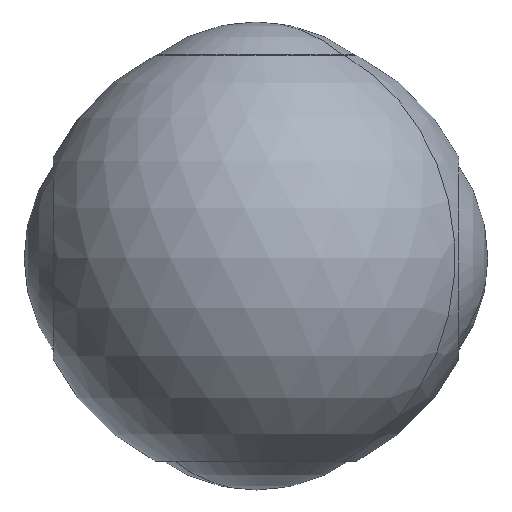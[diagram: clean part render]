
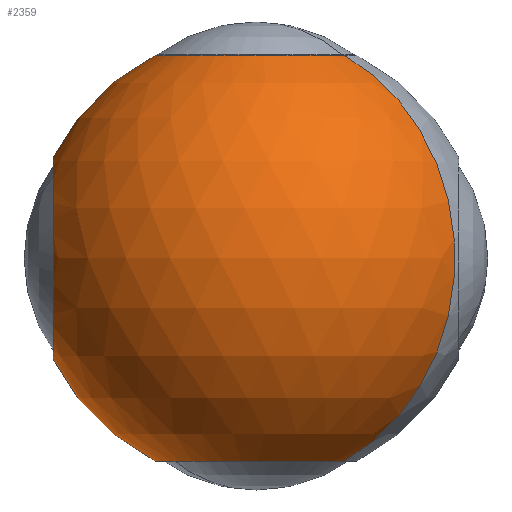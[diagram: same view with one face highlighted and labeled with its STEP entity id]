
A CAD part, front view. The second image highlights one B-rep face of the part: STEP entity #2359.
In plain terms, the highlighted spherical face has radius 55 mm.
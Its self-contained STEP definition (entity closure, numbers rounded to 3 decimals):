
#2226=CARTESIAN_POINT('Axis2P3D Location',(0.,0.,49.242)) ;
#2230=CARTESIAN_POINT('Vertex',(21.501,11.746,49.242)) ;
#2232=CARTESIAN_POINT('Vertex',(-21.501,11.746,49.242)) ;
#2264=CARTESIAN_POINT('Vertex',(21.501,-11.746,49.242)) ;
#2267=CARTESIAN_POINT('Axis2P3D Location',(0.,0.,49.242)) ;
#2280=CARTESIAN_POINT('Axis2P3D Location',(0.,0.,0.)) ;
#2285=CARTESIAN_POINT('Axis2P3D Location',(0.,0.,0.)) ;
#2289=CARTESIAN_POINT('Vertex',(21.501,-11.746,-49.242)) ;
#2292=CARTESIAN_POINT('Axis2P3D Location',(0.,0.,-49.242)) ;
#2296=CARTESIAN_POINT('Vertex',(-21.501,11.746,-49.242)) ;
#2299=CARTESIAN_POINT('Axis2P3D Location',(0.,0.,0.)) ;
#2312=CARTESIAN_POINT('Control Point',(49.242,-11.746,21.501)) ;
#2313=CARTESIAN_POINT('Control Point',(49.242,-14.572,19.957)) ;
#2314=CARTESIAN_POINT('Control Point',(49.242,-17.182,17.928)) ;
#2315=CARTESIAN_POINT('Control Point',(49.242,-19.456,15.443)) ;
#2316=CARTESIAN_POINT('Control Point',(49.242,-23.47,9.161)) ;
#2317=CARTESIAN_POINT('Control Point',(49.242,-24.948,1.776)) ;
#2318=CARTESIAN_POINT('Control Point',(49.242,-24.897,-2.387)) ;
#2319=CARTESIAN_POINT('Control Point',(49.242,-23.232,-9.763)) ;
#2320=CARTESIAN_POINT('Control Point',(49.242,-19.041,-15.961)) ;
#2321=CARTESIAN_POINT('Control Point',(49.242,-16.681,-18.401)) ;
#2322=CARTESIAN_POINT('Control Point',(49.242,-12.471,-21.486)) ;
#2323=CARTESIAN_POINT('Control Point',(49.242,-7.757,-23.347)) ;
#2324=CARTESIAN_POINT('Control Point',(49.242,-6.003,-23.857)) ;
#2325=CARTESIAN_POINT('Control Point',(49.242,-1.34,-24.757)) ;
#2326=CARTESIAN_POINT('Control Point',(49.242,3.406,-24.525)) ;
#2327=CARTESIAN_POINT('Control Point',(49.242,6.309,-23.951)) ;
#2328=CARTESIAN_POINT('Control Point',(49.242,9.121,-22.935)) ;
#2329=CARTESIAN_POINT('Control Point',(49.242,11.746,-21.501)) ;
#2330=CARTESIAN_POINT('Vertex',(49.242,-11.746,21.501)) ;
#2332=CARTESIAN_POINT('Vertex',(49.242,11.746,-21.501)) ;
#2336=CARTESIAN_POINT('Control Point',(49.242,11.746,-21.501)) ;
#2337=CARTESIAN_POINT('Control Point',(49.242,14.572,-19.957)) ;
#2338=CARTESIAN_POINT('Control Point',(49.242,17.182,-17.928)) ;
#2339=CARTESIAN_POINT('Control Point',(49.242,19.456,-15.443)) ;
#2340=CARTESIAN_POINT('Control Point',(49.242,23.47,-9.161)) ;
#2341=CARTESIAN_POINT('Control Point',(49.242,24.948,-1.776)) ;
#2342=CARTESIAN_POINT('Control Point',(49.242,24.897,2.387)) ;
#2343=CARTESIAN_POINT('Control Point',(49.242,23.232,9.763)) ;
#2344=CARTESIAN_POINT('Control Point',(49.242,19.041,15.961)) ;
#2345=CARTESIAN_POINT('Control Point',(49.242,16.681,18.401)) ;
#2346=CARTESIAN_POINT('Control Point',(49.242,12.471,21.486)) ;
#2347=CARTESIAN_POINT('Control Point',(49.242,7.757,23.347)) ;
#2348=CARTESIAN_POINT('Control Point',(49.242,6.003,23.857)) ;
#2349=CARTESIAN_POINT('Control Point',(49.242,1.34,24.757)) ;
#2350=CARTESIAN_POINT('Control Point',(49.242,-3.406,24.525)) ;
#2351=CARTESIAN_POINT('Control Point',(49.242,-6.309,23.951)) ;
#2352=CARTESIAN_POINT('Control Point',(49.242,-9.121,22.935)) ;
#2353=CARTESIAN_POINT('Control Point',(49.242,-11.746,21.501)) ;
#2227=DIRECTION('Axis2P3D Direction',(0.,0.,1.)) ;
#2268=DIRECTION('Axis2P3D Direction',(0.,0.,1.)) ;
#2281=DIRECTION('Axis2P3D Direction',(0.,0.,-1.)) ;
#2282=DIRECTION('Axis2P3D XDirection',(-0.878,0.479,0.)) ;
#2286=DIRECTION('Axis2P3D Direction',(0.479,0.878,0.)) ;
#2293=DIRECTION('Axis2P3D Direction',(0.,0.,-1.)) ;
#2300=DIRECTION('Axis2P3D Direction',(-0.479,-0.878,-0.)) ;
#2228=AXIS2_PLACEMENT_3D('Circle Axis2P3D',#2226,#2227,$) ;
#2269=AXIS2_PLACEMENT_3D('Circle Axis2P3D',#2267,#2268,$) ;
#2283=AXIS2_PLACEMENT_3D('Sphere Axis2P3D',#2280,#2281,#2282) ;
#2287=AXIS2_PLACEMENT_3D('Circle Axis2P3D',#2285,#2286,$) ;
#2294=AXIS2_PLACEMENT_3D('Circle Axis2P3D',#2292,#2293,$) ;
#2301=AXIS2_PLACEMENT_3D('Circle Axis2P3D',#2299,#2300,$) ;
#2305=ORIENTED_EDGE('',*,*,#2234,.F.) ;
#2306=ORIENTED_EDGE('',*,*,#2271,.T.) ;
#2307=ORIENTED_EDGE('',*,*,#2291,.F.) ;
#2308=ORIENTED_EDGE('',*,*,#2298,.F.) ;
#2309=ORIENTED_EDGE('',*,*,#2303,.T.) ;
#2356=ORIENTED_EDGE('',*,*,#2334,.F.) ;
#2357=ORIENTED_EDGE('',*,*,#2354,.F.) ;
#2358=FACE_BOUND('',#2355,.T.) ;
#2359=ADVANCED_FACE('\X2\96F64EF651E04F554F53\X0\',(#2310,#2358),#2284,.T.) ;
#2311=B_SPLINE_CURVE_WITH_KNOTS('',5,(#2312,#2313,#2314,#2315,#2316,#2317,#2318,#2319,#2320,#2321,#2322,#2323,#2324,#2325,#2326,#2327,#2328,#2329),.UNSPECIFIED.,.F.,.U.,(6,3,3,3,3,6),(0.,23.51,52.11,75.824,89.309,111.141),.UNSPECIFIED.) ;
#2335=B_SPLINE_CURVE_WITH_KNOTS('',5,(#2336,#2337,#2338,#2339,#2340,#2341,#2342,#2343,#2344,#2345,#2346,#2347,#2348,#2349,#2350,#2351,#2352,#2353),.UNSPECIFIED.,.F.,.U.,(6,3,3,3,3,6),(0.,23.51,52.11,75.824,89.309,111.141),.UNSPECIFIED.) ;
#2229=CIRCLE('generated circle',#2228,24.5) ;
#2270=CIRCLE('generated circle',#2269,24.5) ;
#2288=CIRCLE('generated circle',#2287,55.) ;
#2295=CIRCLE('generated circle',#2294,24.5) ;
#2302=CIRCLE('generated circle',#2301,55.) ;
#2234=EDGE_CURVE('',#2231,#2233,#2229,.T.) ;
#2271=EDGE_CURVE('',#2231,#2265,#2270,.F.) ;
#2291=EDGE_CURVE('',#2290,#2265,#2288,.F.) ;
#2298=EDGE_CURVE('',#2297,#2290,#2295,.T.) ;
#2303=EDGE_CURVE('',#2297,#2233,#2302,.F.) ;
#2334=EDGE_CURVE('',#2331,#2333,#2311,.T.) ;
#2354=EDGE_CURVE('',#2333,#2331,#2335,.T.) ;
#2304=EDGE_LOOP('',(#2305,#2306,#2307,#2308,#2309)) ;
#2355=EDGE_LOOP('',(#2356,#2357)) ;
#2310=FACE_OUTER_BOUND('',#2304,.T.) ;
#2284=SPHERICAL_SURFACE('',#2283,55.) ;
#2231=VERTEX_POINT('',#2230) ;
#2233=VERTEX_POINT('',#2232) ;
#2265=VERTEX_POINT('',#2264) ;
#2290=VERTEX_POINT('',#2289) ;
#2297=VERTEX_POINT('',#2296) ;
#2331=VERTEX_POINT('',#2330) ;
#2333=VERTEX_POINT('',#2332) ;
